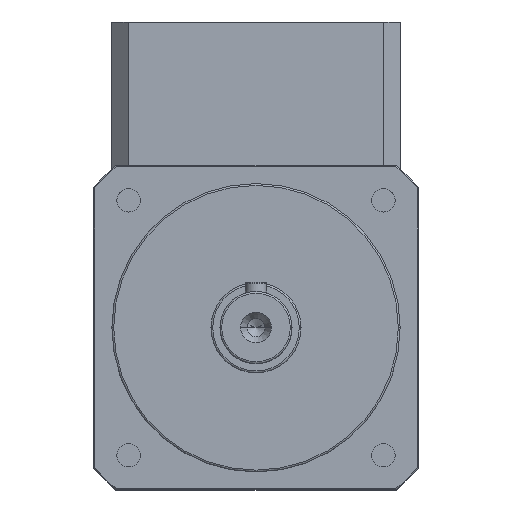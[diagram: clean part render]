
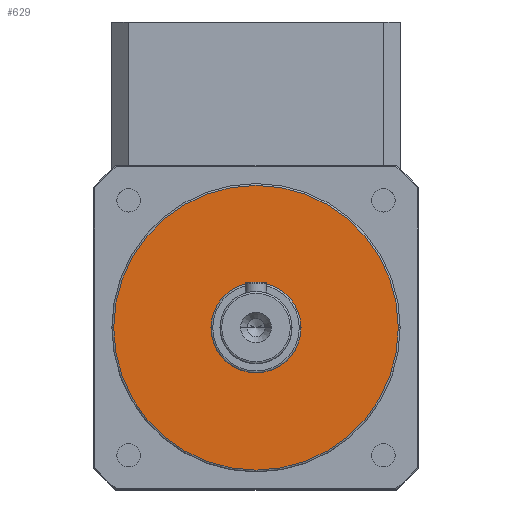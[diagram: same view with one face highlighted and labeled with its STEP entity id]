
A CAD part, top view. The second image highlights one B-rep face of the part: STEP entity #629.
In plain terms, the highlighted planar face has unit normal (0, 0, 1).
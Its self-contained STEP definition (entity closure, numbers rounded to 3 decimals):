
#119 = EDGE_CURVE ( 'NONE', #3002, #4623, #2820, .T. ) ;
#220 = CIRCLE ( 'NONE', #1415, 12.5 ) ;
#417 = ORIENTED_EDGE ( 'NONE', *, *, #794, .F. ) ;
#438 = AXIS2_PLACEMENT_3D ( 'NONE', #2609, #2592, #2567 ) ;
#629 = ADVANCED_FACE ( 'NONE', ( #673, #730 ), #697, .T. ) ;
#673 = FACE_BOUND ( 'NONE', #1847, .T. ) ;
#697 = PLANE ( 'NONE',  #4076 ) ;
#730 = FACE_OUTER_BOUND ( 'NONE', #2358, .T. ) ;
#736 = DIRECTION ( 'NONE',  ( 0., 0., 1. ) ) ;
#794 = EDGE_CURVE ( 'NONE', #5849, #804, #220, .T. ) ;
#804 = VERTEX_POINT ( 'NONE', #867 ) ;
#867 = CARTESIAN_POINT ( 'NONE',  ( -12.5, 0., 3. ) ) ;
#917 = DIRECTION ( 'NONE',  ( 1., 0., 0. ) ) ;
#929 = DIRECTION ( 'NONE',  ( 0., 0., 1. ) ) ;
#937 = CARTESIAN_POINT ( 'NONE',  ( 0., 0., 3. ) ) ;
#955 = DIRECTION ( 'NONE',  ( 1., 0., 0. ) ) ;
#1060 = DIRECTION ( 'NONE',  ( 0., 0., 1. ) ) ;
#1268 = CARTESIAN_POINT ( 'NONE',  ( 12.5, 0., 3. ) ) ;
#1309 = EDGE_CURVE ( 'NONE', #804, #5849, #2650, .T. ) ;
#1415 = AXIS2_PLACEMENT_3D ( 'NONE', #937, #929, #917 ) ;
#1567 = DIRECTION ( 'NONE',  ( 0., 0., 1. ) ) ;
#1648 = AXIS2_PLACEMENT_3D ( 'NONE', #2720, #1567, #955 ) ;
#1847 = EDGE_LOOP ( 'NONE', ( #417, #3334 ) ) ;
#2358 = EDGE_LOOP ( 'NONE', ( #4653, #2410 ) ) ;
#2410 = ORIENTED_EDGE ( 'NONE', *, *, #2663, .T. ) ;
#2567 = DIRECTION ( 'NONE',  ( 1., 0., 0. ) ) ;
#2592 = DIRECTION ( 'NONE',  ( 0., 0., 1. ) ) ;
#2609 = CARTESIAN_POINT ( 'NONE',  ( 0., 0., 3. ) ) ;
#2650 = CIRCLE ( 'NONE', #438, 12.5 ) ;
#2663 = EDGE_CURVE ( 'NONE', #4623, #3002, #2854, .T. ) ;
#2720 = CARTESIAN_POINT ( 'NONE',  ( 0., 0., 3. ) ) ;
#2730 = DIRECTION ( 'NONE',  ( 1., 0., 0. ) ) ;
#2820 = CIRCLE ( 'NONE', #5578, 39.5 ) ;
#2854 = CIRCLE ( 'NONE', #1648, 39.5 ) ;
#3002 = VERTEX_POINT ( 'NONE', #5456 ) ;
#3334 = ORIENTED_EDGE ( 'NONE', *, *, #1309, .F. ) ;
#4076 = AXIS2_PLACEMENT_3D ( 'NONE', #6098, #1060, #5715 ) ;
#4560 = CARTESIAN_POINT ( 'NONE',  ( 0., 0., 3. ) ) ;
#4623 = VERTEX_POINT ( 'NONE', #5979 ) ;
#4653 = ORIENTED_EDGE ( 'NONE', *, *, #119, .T. ) ;
#5456 = CARTESIAN_POINT ( 'NONE',  ( 39.5, 0., 3. ) ) ;
#5578 = AXIS2_PLACEMENT_3D ( 'NONE', #4560, #736, #2730 ) ;
#5715 = DIRECTION ( 'NONE',  ( 1., 0., 0. ) ) ;
#5849 = VERTEX_POINT ( 'NONE', #1268 ) ;
#5979 = CARTESIAN_POINT ( 'NONE',  ( -39.5, 0., 3. ) ) ;
#6098 = CARTESIAN_POINT ( 'NONE',  ( 0., 0., 3. ) ) ;
